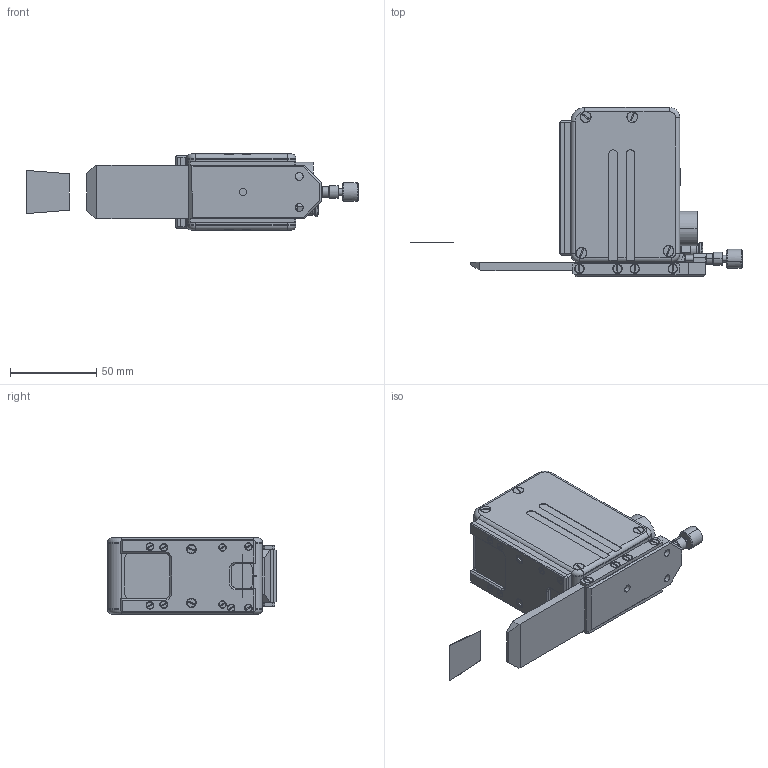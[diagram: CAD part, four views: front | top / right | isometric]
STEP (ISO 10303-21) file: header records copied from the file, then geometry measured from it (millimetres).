
FILE_DESCRIPTION (( 'STEP AP214' ), '1' );
FILE_NAME ('ÐÔ 627.68_25 ÑÂ.000_Ñâàðî÷íûé ñêàíåð 25-êà äëÿ ñàéòà.STEP', '2019-07-04T08:13:52', ( 'test' ), ( 'Ref' ), 'SwSTEP 2.0', 'SolidWorks 2015', '' );
FILE_SCHEMA (( 'AUTOMOTIVE_DESIGN' ));
Length unit declared in the file: millimetre
Products named in the file (38): Äåòàëü ãàéêà-âòóëêàä4; Íàêëàäêà ñìåííûõ ñò¸êîë 25-êà; Submodel-PartNo_586214070_part_Fiducial_0.5; Âèíò_Ì2õ6; Êðûøêà 627 - â7  çåðêàëüíàÿ 250-êà ñâàðî÷íûé; Êðûøêà 627 - â6  áîêîâàÿ 250-êà ñâàðî÷íûé; placementOutline_5; ñîåäèíèòåëüíàÿ âòóëêà 1; RF627_80_018(2); Äåòàëü âèíò ì4-ñòîïîð; 砐錼 睯儰擯闃蠂 25; Submodel-noModelForPart_FH12-32S-0.5SH_lpar_55_rpar__2555814880; 性 625.75_ 袜觌彘赅_觏铒觇; Êîðïóñ 627 - ñêàíåð ñâàðî÷íûé 25-êà; Âèíò_Ì3x9 â ïîòàé; Submodel-PartNo_3745581265_part_Fiducial_0.5; placementOutline_3; 栺樏鋋 13-15,4; Submodel-0905079016_3191903347_part_09 0507 90 16; 栺樏鋋 25-28; Âèíò_Ì2.5õ6; uid__27; Submodel-FH12-32S-0.5SH_lpar_55_rpar__2555814880_part_FH12-32S-0.5SH; 153304_QSM-M5-4; Submodel-noModelForPart_PartNo_586214070; Submodel-FH12-06S-1SH_lpar_55_rpar__1599555785_part_FH12-06S-1SH; Submodel-noModelForPart_FH12-06S-1SH_lpar_55_rpar__1599555785; Submodel-noModelForPart_PartNo_3745581265; ÐÔ 627.68_25 ÑÂ.000_Ñâàðî÷íûé ñêàíåð 25-êà äëÿ ñàéòà; Áûñòðîñú¸ìíàÿ îñíàñòêà 25-êà -03; DesignRootModel; Submodel-noModelForPart_0905079016_3191903347; placementOutline_2; ч蜱齁罻 罻縺錟 1; placementOutline_4; Áîêîâîé óïîð äëÿ áûñòðîñú¸ìíîé îñíàñòêè 2 áåç øòèôòîâ; placementOutline; Êðîíøòåéí îáäóâ ñî ñìåííûìè ñòåêëàìè 25-êà
Assembly tree (70 placements, depth 6):
  ÐÔ 627.68_25 ÑÂ.000_Ñâàðî÷íûé ñêàíåð 25-êà äëÿ ñàéòà
    性 625.75_ 袜觌彘赅_觏铒觇
    RF627_80_018(2)
      DesignRootModel
        uid__27
        Submodel-FH12-06S-1SH_lpar_55_rpar__1599555785_part_FH12-06S-1SH
          Submodel-noModelForPart_FH12-06S-1SH_lpar_55_rpar__1599555785
            placementOutline
        Submodel-0905079016_3191903347_part_09 0507 90 16
          Submodel-noModelForPart_0905079016_3191903347
            placementOutline_2
        Submodel-PartNo_586214070_part_Fiducial_0.5  x3
          Submodel-noModelForPart_PartNo_586214070
            placementOutline_3
        Submodel-PartNo_3745581265_part_Fiducial_0.5  x3
          Submodel-noModelForPart_PartNo_3745581265
            placementOutline_4
        Submodel-FH12-32S-0.5SH_lpar_55_rpar__2555814880_part_FH12-32S-0.5SH
          Submodel-noModelForPart_FH12-32S-0.5SH_lpar_55_rpar__2555814880
            placementOutline_5
    153304_QSM-M5-4
    Áîêîâîé óïîð äëÿ áûñòðîñú¸ìíîé îñíàñòêè 2 áåç øòèôòîâ  x2
    Äåòàëü âèíò ì4-ñòîïîð
    Äåòàëü ãàéêà-âòóëêàä4
    Êðûøêà 627 - â6  áîêîâàÿ 250-êà ñâàðî÷íûé
    ч蜱齁罻 罻縺錟 1
    栺樏鋋 25-28
    栺樏鋋 13-15,4
    ñîåäèíèòåëüíàÿ âòóëêà 1
    Âèíò_Ì2õ6  x13
    Âèíò_Ì2.5õ6  x10
    Âèíò_Ì3x9 â ïîòàé  x8
    Êîðïóñ 627 - ñêàíåð ñâàðî÷íûé 25-êà
    Êðûøêà 627 - â7  çåðêàëüíàÿ 250-êà ñâàðî÷íûé
    Êðîíøòåéí îáäóâ ñî ñìåííûìè ñòåêëàìè 25-êà
    Íàêëàäêà ñìåííûõ ñò¸êîë 25-êà
    Áûñòðîñú¸ìíàÿ îñíàñòêà 25-êà -03
    砐錼 睯儰擯闃蠂 25
Bounding box: 192 x 97.7 x 44 mm (x, y, z)
Volume: 119128.5 mm3; surface area: 91709.3 mm2
Topology: 61 solids, 61 shells, 1838 faces, 4691 edges, 2993 vertices
Faces by surface type: plane 885, cylinder 561, cone 274, bspline 88, torus 30
Entity records: 50266 total; most frequent: CARTESIAN_POINT 12558, ORIENTED_EDGE 7158, DIRECTION 7035, EDGE_CURVE 3579, AXIS2_PLACEMENT_3D 2367, VERTEX_POINT 2326, VECTOR 2301, LINE 2301
